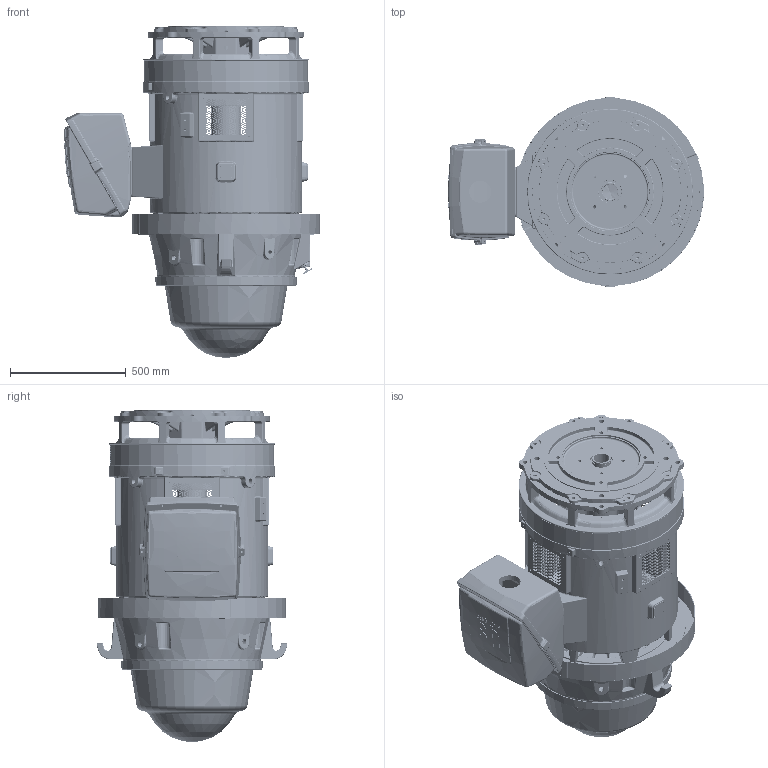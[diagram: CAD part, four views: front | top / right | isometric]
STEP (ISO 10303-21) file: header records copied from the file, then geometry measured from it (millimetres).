
FILE_DESCRIPTION((''),'2;1');
FILE_NAME('449TP_RUSI_ASM','2020-01-16T13:13:05',('EMD2341'),('Nidec Motor Corporation'),'CREO PARAMETRIC BY PTC INC, 2019080','CREO PARAMETRIC BY PTC INC, 2019080','');
FILE_SCHEMA(('CONFIG_CONTROL_DESIGN'));
Products named in the file (26): 2053781_1; 2052818_1; 2053379-000_1; 2053379_ASM_1_ASM; 2057257-001_1; 0411031_1; 0890157_1; 0890152_1; 0890149_1; 0827142_1; 0842897_1; 2054470_1; 2057321-2_1; 2057321_ASM_1_ASM; 2054470-2_1; 2054470_ASM_1_ASM; 2057350-GRL_1; 2057352-GRL_1; 0478404_1; 0617283_1; 2057352_1; 0132591_1; 0396021_1; 0492638_1; 2059130-001_ASM_1_ASM; 449TP_RUSI_ASM
Assembly tree (31 placements, depth 4):
  449TP_RUSI_ASM
    2059130-001_ASM_1_ASM
      2053781_1
      2052818_1
      2053379_ASM_1_ASM
        2053379-000_1
      2057257-001_1
      0411031_1
      0890157_1
      0890152_1
      0890149_1
      0827142_1  x2
      0842897_1  x3
      2057321_ASM_1_ASM
        2054470_1
        2057321-2_1
      2054470_ASM_1_ASM
        2054470_1
        2054470-2_1
      2057350-GRL_1
      2057352-GRL_1
      0478404_1
      0617283_1
      2057352_1  x3
      0132591_1
      0396021_1
      0492638_1
Bounding box: 1107.85 x 826.73 x 1437.21 mm (x, y, z)
Volume: 89377196.7 mm3; surface area: 14573404.3 mm2
Topology: 27 solids, 128 shells, 21677 faces, 61615 edges, 39768 vertices
Faces by surface type: cylinder 9807, plane 8477, bspline 1808, torus 880, cone 351, sphere 286, extrusion 68
Entity records: 571089 total; most frequent: CARTESIAN_POINT 208669, ORIENTED_EDGE 78484, DIRECTION 72230, EDGE_CURVE 39440, AXIS2_PLACEMENT_3D 26349, VERTEX_POINT 25235, VECTOR 19532, LINE 19464
